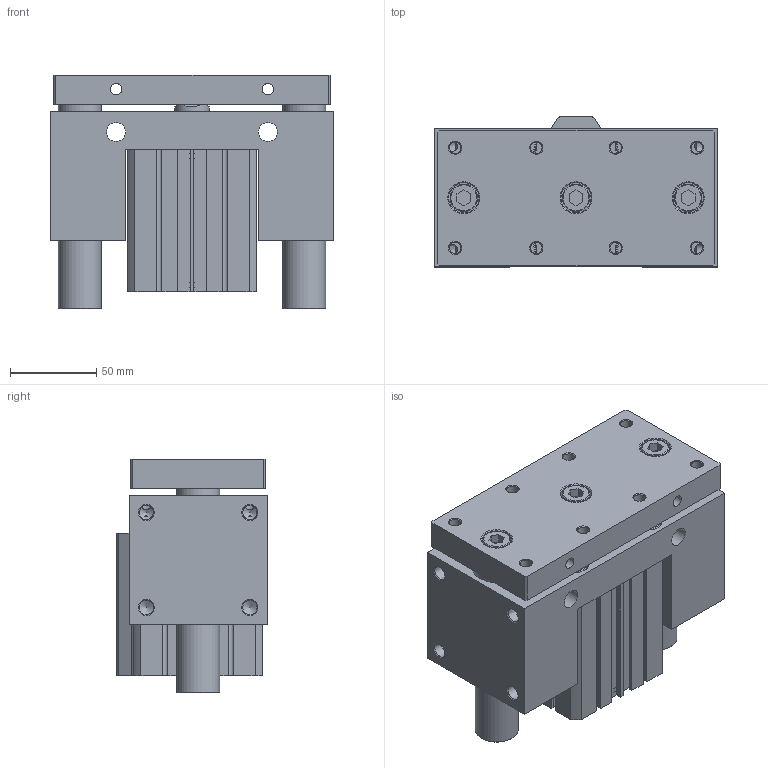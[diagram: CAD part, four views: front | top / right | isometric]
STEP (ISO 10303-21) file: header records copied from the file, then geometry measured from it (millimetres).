
FILE_DESCRIPTION((''),'2;1');
FILE_NAME('I:\3D電子目錄\氣缸\JCB\JCB\JCB63-S\JCB63x40-S.stp','2007-09-01T15:30:41',('Administrator'),(''),'Autodesk Inventor 11','Autodesk Inventor 11','');
FILE_SCHEMA(('AUTOMOTIVE_DESIGN { 1 0 10303 214 1 1 1 1 }'));
Length unit declared in the file: millimetre
Products named in the file (1): JCB63
Bounding box: 164 x 87 x 135.5 mm (x, y, z)
Volume: 1284004.5 mm3; surface area: 202286.3 mm2
Topology: 3 solids, 5 shells, 343 faces, 829 edges, 538 vertices
Faces by surface type: plane 186, cylinder 62, cone 47, bspline 40, torus 8
Full cylindrical faces by diameter (mm): 3 x2, 6.8 x4, 8.376 x4, 11 x8, 13 x4, 14 x4, 16 x3, 17.5 x3, 20 x1, 21 x1, 25 x2, 28 x2, 40 x1, 47 x1, 65 x4, 68 x2
Entity records: 10008 total; most frequent: CARTESIAN_POINT 2670, DIRECTION 1474, ORIENTED_EDGE 1320, EDGE_CURVE 660, EDGE_LOOP 554, AXIS2_PLACEMENT_3D 532, VERTEX_POINT 498, VECTOR 410
